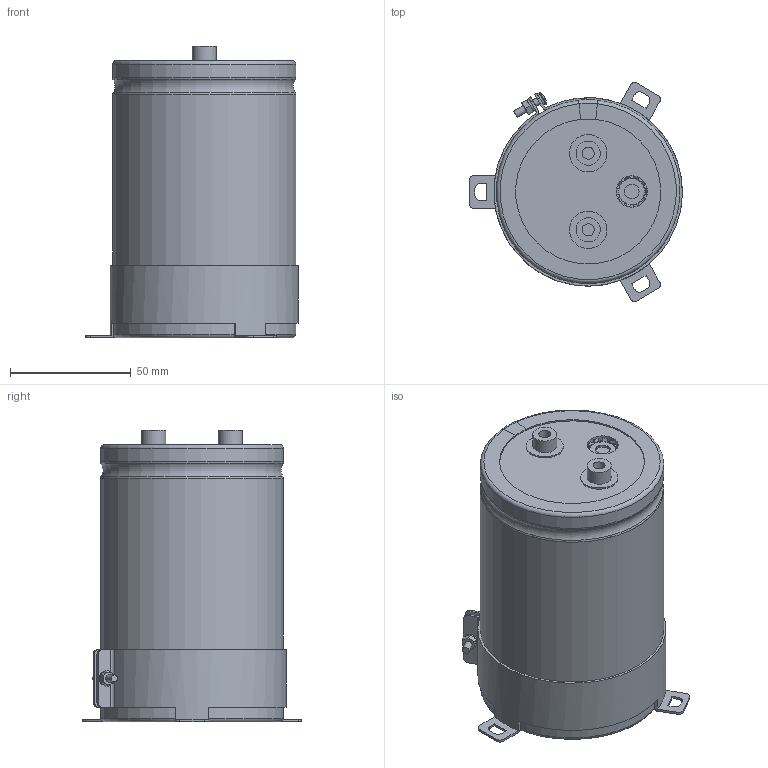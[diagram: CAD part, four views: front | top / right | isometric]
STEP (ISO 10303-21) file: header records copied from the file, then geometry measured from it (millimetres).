
FILE_DESCRIPTION(/* description */ (''),/* implementation_level */ '2;1');
FILE_NAME(/* name */ '76.2x115_Screw.stp',/* time_stamp */ '2017-09-17T13:24:44+09:00',/* author */ (''),/* organization */ (''),/* preprocessor_version */ 'ST-DEVELOPER v16',/* originating_system */ 'SIEMENS PLM Software NX 11.0',/* authorisation */ '');
FILE_SCHEMA (('AUTOMOTIVE_DESIGN { 1 0 10303 214 3 1 1 1 }'));
Length unit declared in the file: millimetre
Products named in the file (1): 76.2x115_Screw
Bounding box: 88.3 x 90.75 x 121 mm (x, y, z)
Volume: 526828.9 mm3; surface area: 112698.5 mm2
Topology: 9 solids, 9 shells, 259 faces, 642 edges, 413 vertices
Faces by surface type: plane 112, cylinder 66, torus 49, cone 31, sphere 1
Full cylindrical faces by diameter (mm): 3 x5, 5 x2, 5.5 x2, 6 x4, 8 x1, 10 x2, 13 x2, 15.5 x2, 75 x2
Entity records: 8534 total; most frequent: CARTESIAN_POINT 2182, DIRECTION 1296, ORIENTED_EDGE 1214, EDGE_CURVE 607, AXIS2_PLACEMENT_3D 541, VERTEX_POINT 408, EDGE_LOOP 317, CIRCLE 281
